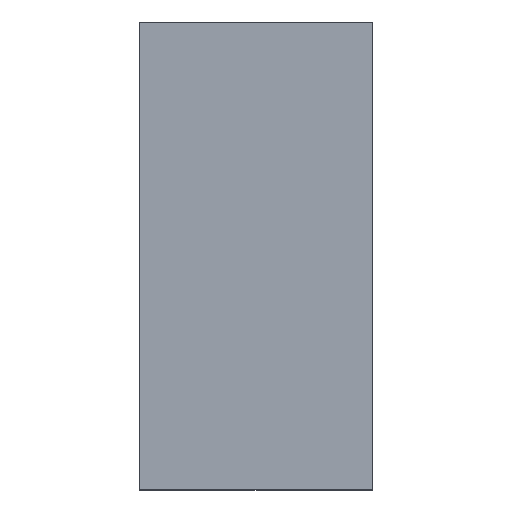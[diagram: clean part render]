
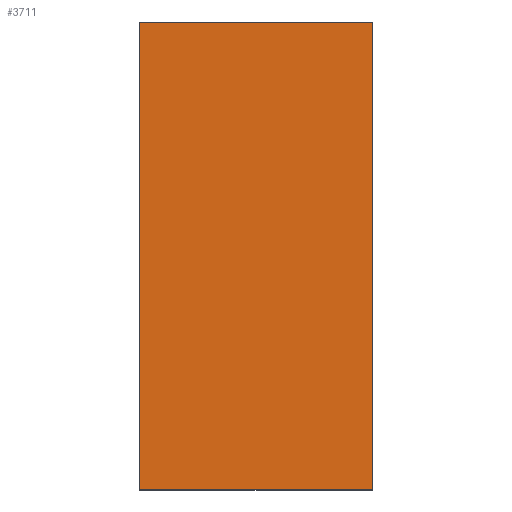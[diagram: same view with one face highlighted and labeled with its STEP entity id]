
A CAD part, top view. The second image highlights one B-rep face of the part: STEP entity #3711.
In plain terms, the highlighted planar face has unit normal (0, 0, 1).
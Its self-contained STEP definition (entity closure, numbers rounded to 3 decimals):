
#55 = DIRECTION ( 'NONE',  ( 0., -1., 0. ) ) ;
#104 = ORIENTED_EDGE ( 'NONE', *, *, #1373, .T. ) ;
#297 = VECTOR ( 'NONE', #2240, 1000. ) ;
#397 = DIRECTION ( 'NONE',  ( -1., 0., 0. ) ) ;
#526 = CARTESIAN_POINT ( 'NONE',  ( 290., 580., 25. ) ) ;
#656 = CARTESIAN_POINT ( 'NONE',  ( -290., -580., 25. ) ) ;
#695 = VERTEX_POINT ( 'NONE', #526 ) ;
#947 = CARTESIAN_POINT ( 'NONE',  ( 290., -580., 25. ) ) ;
#961 = CARTESIAN_POINT ( 'NONE',  ( -290., 580., 25. ) ) ;
#1208 = EDGE_LOOP ( 'NONE', ( #104, #3336, #3231, #2367 ) ) ;
#1302 = VECTOR ( 'NONE', #397, 1000. ) ;
#1326 = VERTEX_POINT ( 'NONE', #947 ) ;
#1373 = EDGE_CURVE ( 'NONE', #2199, #2297, #3016, .T. ) ;
#1613 = CARTESIAN_POINT ( 'NONE',  ( -290., 580., 25. ) ) ;
#1744 = EDGE_CURVE ( 'NONE', #1326, #695, #2459, .T. ) ;
#1799 = CARTESIAN_POINT ( 'NONE',  ( 0., 0., 25. ) ) ;
#1811 = PLANE ( 'NONE',  #2558 ) ;
#2126 = LINE ( 'NONE', #1613, #1302 ) ;
#2137 = DIRECTION ( 'NONE',  ( 1., 0., 0. ) ) ;
#2199 = VERTEX_POINT ( 'NONE', #2491 ) ;
#2240 = DIRECTION ( 'NONE',  ( 0., 1., 0. ) ) ;
#2297 = VERTEX_POINT ( 'NONE', #656 ) ;
#2367 = ORIENTED_EDGE ( 'NONE', *, *, #2581, .T. ) ;
#2376 = CARTESIAN_POINT ( 'NONE',  ( -290., -580., 25. ) ) ;
#2459 = LINE ( 'NONE', #3879, #297 ) ;
#2491 = CARTESIAN_POINT ( 'NONE',  ( -290., 580., 25. ) ) ;
#2558 = AXIS2_PLACEMENT_3D ( 'NONE', #1799, #4088, #2137 ) ;
#2581 = EDGE_CURVE ( 'NONE', #695, #2199, #2126, .T. ) ;
#2923 = VECTOR ( 'NONE', #55, 1000. ) ;
#2957 = FACE_OUTER_BOUND ( 'NONE', #1208, .T. ) ;
#3016 = LINE ( 'NONE', #961, #2923 ) ;
#3157 = VECTOR ( 'NONE', #3360, 1000. ) ;
#3231 = ORIENTED_EDGE ( 'NONE', *, *, #1744, .T. ) ;
#3271 = LINE ( 'NONE', #2376, #3157 ) ;
#3336 = ORIENTED_EDGE ( 'NONE', *, *, #3670, .T. ) ;
#3360 = DIRECTION ( 'NONE',  ( 1., 0., 0. ) ) ;
#3670 = EDGE_CURVE ( 'NONE', #2297, #1326, #3271, .T. ) ;
#3711 = ADVANCED_FACE ( 'NONE', ( #2957 ), #1811, .T. ) ;
#3879 = CARTESIAN_POINT ( 'NONE',  ( 290., 580., 25. ) ) ;
#4088 = DIRECTION ( 'NONE',  ( 0., 0., 1. ) ) ;
